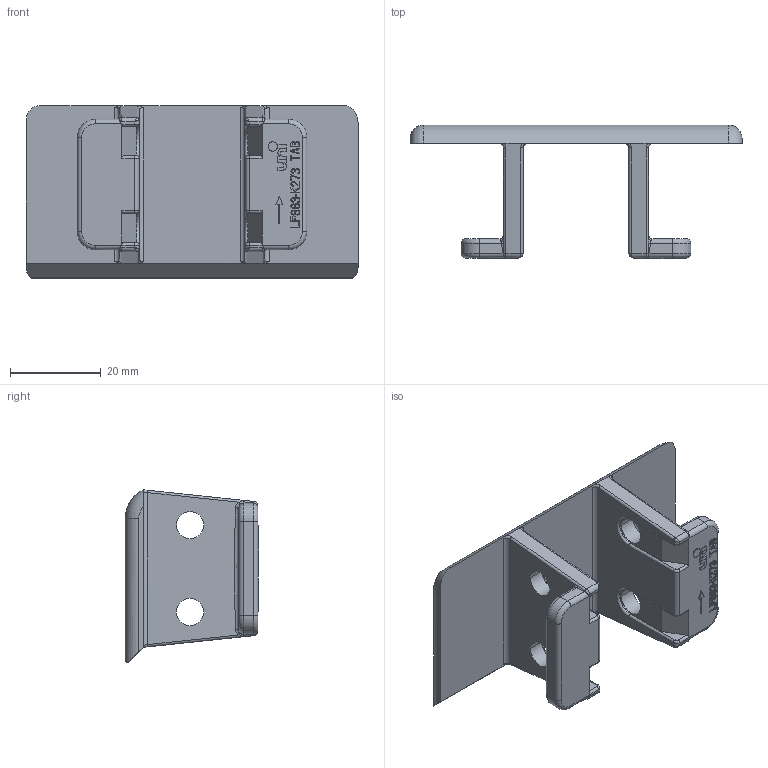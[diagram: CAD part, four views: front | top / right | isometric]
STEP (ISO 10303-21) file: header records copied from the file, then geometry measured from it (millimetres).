
FILE_DESCRIPTION((''),'2;1');
FILE_NAME('P1364','2015-12-23T',('bhe'),(''),'CREO PARAMETRIC BY PTC INC, 2015290','CREO PARAMETRIC BY PTC INC, 2015290','');
FILE_SCHEMA(('CONFIG_CONTROL_DESIGN'));
Length unit declared in the file: millimetre
Products named in the file (1): P1364
Bounding box: 73.03 x 29.4 x 37.91 mm (x, y, z)
Volume: 18120.6 mm3; surface area: 10649.2 mm2
Topology: 1 solids, 1 shells, 613 faces, 1658 edges, 1071 vertices
Faces by surface type: plane 461, cylinder 84, bspline 52, torus 16
Entity records: 21716 total; most frequent: CARTESIAN_POINT 6544, ORIENTED_EDGE 3316, DIRECTION 2849, EDGE_CURVE 1658, VECTOR 1371, LINE 1371, VERTEX_POINT 1071, AXIS2_PLACEMENT_3D 739
